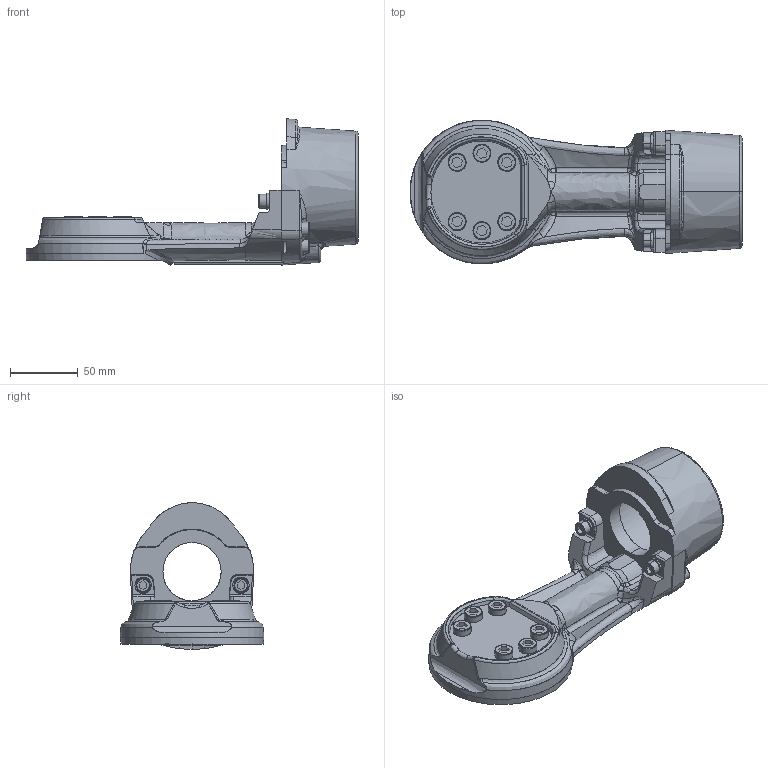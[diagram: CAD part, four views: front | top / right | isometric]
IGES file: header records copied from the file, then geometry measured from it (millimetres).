
Start section: SolidWorks IGES file using analytic representation for surfaces
Global section: file name: C:\2\Original\IRB1520ID_4_150__02_link5_iges_j.IGS; native system: SolidWorks 2010; preprocessor: SolidWorks 2010; author: CNWESUN5; date: 130409.130529; units: millimetre
Bounding box: 244.5 x 105.8 x 107.95 mm (x, y, z)
Surface area: 81588.4 mm2 (no closed solid volume)
Topology: 0 solids, 0 shells, 417 faces, 5510 edges, 5499 vertices
Faces by surface type: bspline 384, revolution 33
